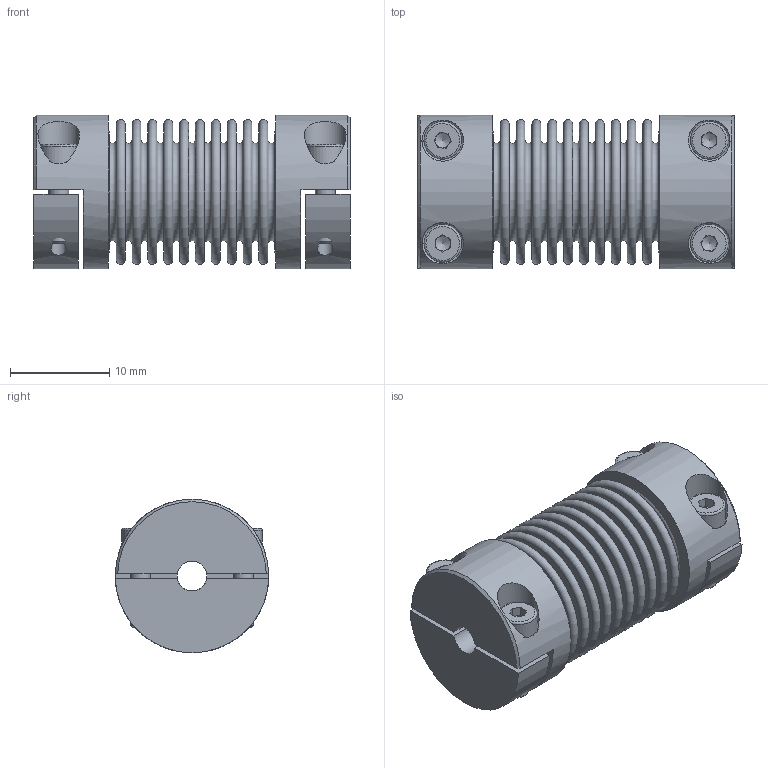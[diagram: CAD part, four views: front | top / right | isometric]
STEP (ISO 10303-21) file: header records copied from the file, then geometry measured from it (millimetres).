
FILE_DESCRIPTION( ( 'Unknown' ), '1' );
FILE_NAME( 'K:/Konstruktion/KB2H/KB2H-10-31.stp', 'Unknown', ( 'Unknown' ), ( 'Unknown' ), 'PSStep 16.0.42', 'Unknown', ' ' );
FILE_SCHEMA( ( 'AUTOMOTIVE_DESIGN { 1 0 10303 214 1 1 1 1 }' ) );
Length unit declared in the file: millimetre
Products named in the file (5): Assem1; KNH-5; BL10_Standard_0; Socket Head Cap Screw_DIN_DIN 912 M2 x 8 --- 8N_11
Assembly tree (9 placements, depth 2):
  Assem1
    KNH-5  x2
    KNH-5  x2
    BL10_Standard_0
    Socket Head Cap Screw_DIN_DIN 912 M2 x 8 --- 8N_11  x4
Bounding box: 31.9 x 15.5 x 15.5 mm (x, y, z)
Volume: 2769.1 mm3; surface area: 7677.6 mm2
Topology: 9 solids, 9 shells, 228 faces, 442 edges, 282 vertices
Faces by surface type: plane 128, torus 58, cylinder 32, cone 10
Full cylindrical faces by diameter (mm): 1.567 x4, 2 x4, 2.2 x4, 3 x2, 3.8 x4, 12.9 x2, 13.1 x2, 15.5 x2
Entity records: 4592 total; most frequent: CARTESIAN_POINT 697, DIRECTION 602, ORIENTED_EDGE 356, AXIS2_PLACEMENT_3D 281, EDGE_LOOP 263, FACE_OUTER_BOUND 203, EDGE_CURVE 178, VERTEX_POINT 176
